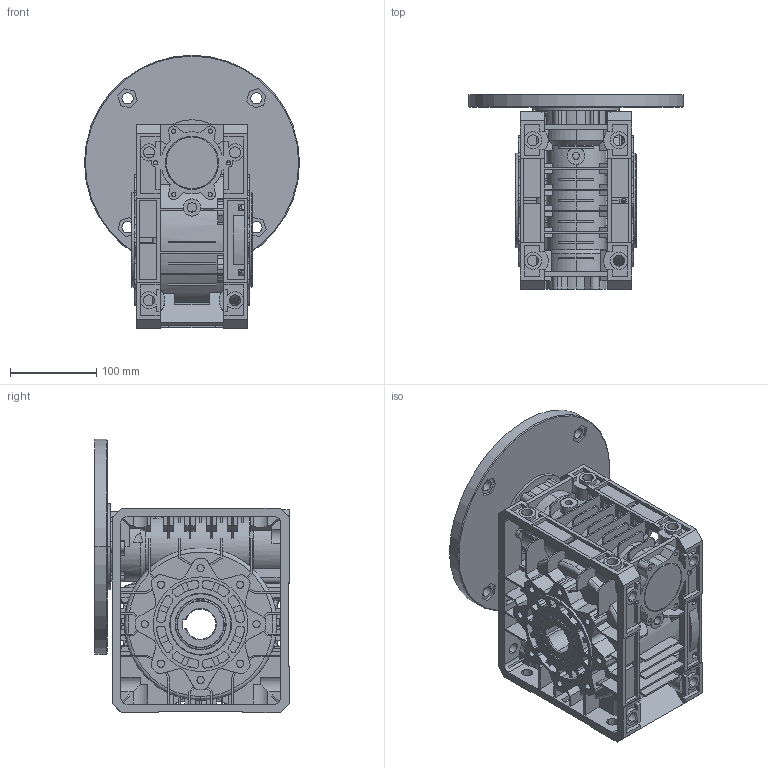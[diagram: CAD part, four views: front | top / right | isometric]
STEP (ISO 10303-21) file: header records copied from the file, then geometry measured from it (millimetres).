
FILE_DESCRIPTION (( 'STEP AP203' ), '1' );
FILE_NAME ('3F021151.STEP', '2012-07-26T08:21:25', ( 'Amministratore' ), ( 'SerteK sas' ), 'SwSTEP 2.0', 'SolidWorks 2009', '' );
FILE_SCHEMA (( 'CONFIG_CONTROL_DESIGN' ));
Length unit declared in the file: millimetre
Products named in the file (1): 3F021151
Bounding box: 250 x 226 x 318 mm (x, y, z)
Surface area: 870882.3 mm2 (no closed solid volume)
Topology: 0 solids, 34 shells, 3298 faces, 8967 edges, 5710 vertices
Faces by surface type: plane 1327, cylinder 1106, bspline 555, cone 310
Entity records: 128981 total; most frequent: CARTESIAN_POINT 48517, ORIENTED_EDGE 17782, DIRECTION 16088, EDGE_CURVE 8915, AXIS2_PLACEMENT_3D 5938, VERTEX_POINT 5712, VECTOR 4212, LINE 4212
